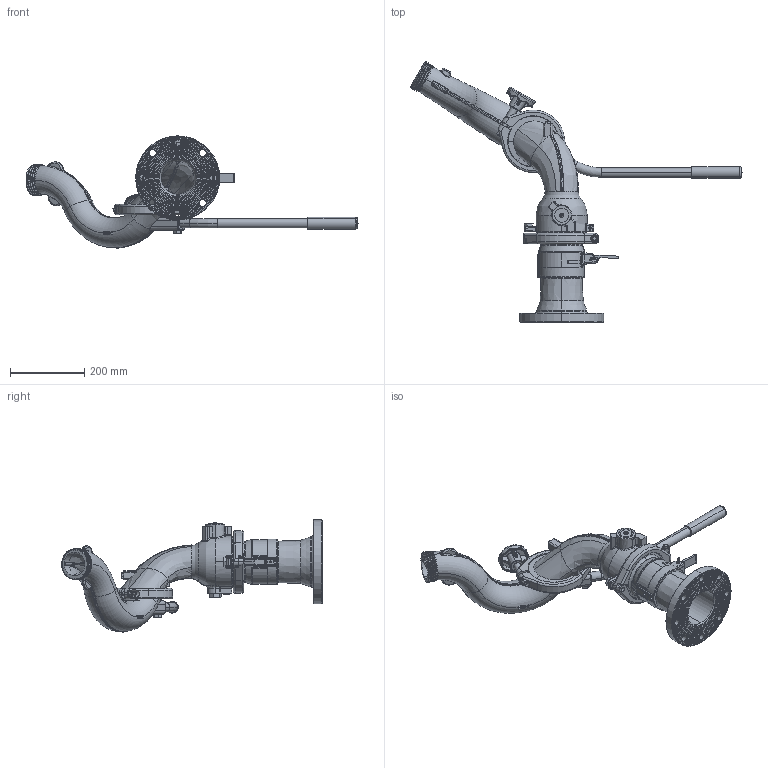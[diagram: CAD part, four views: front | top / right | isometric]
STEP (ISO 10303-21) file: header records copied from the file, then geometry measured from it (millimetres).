
FILE_DESCRIPTION (( 'STEP AP203' ), '1' );
FILE_NAME ('Z1221A.step', '2014-05-13T20:24:49', ( 'user' ), ( '' ), 'SwSTEP 2.0', 'SolidWorks 2012', '' );
FILE_SCHEMA (( 'CONFIG_CONTROL_DESIGN' ));
Length unit declared in the file: inch
Products named in the file (1): Z1221A
Bounding box: 893.22 x 701.11 x 301.82 mm (x, y, z)
Surface area: 720075.8 mm2 (no closed solid volume)
Topology: 0 solids, 39 shells, 1164 faces, 3839 edges, 2613 vertices
Faces by surface type: bspline 305, cylinder 271, plane 269, torus 232, cone 81, sphere 6
Entity records: 158100 total; most frequent: CARTESIAN_POINT 129042, ORIENTED_EDGE 6442, DIRECTION 4904, EDGE_CURVE 3832, VERTEX_POINT 2613, AXIS2_PLACEMENT_3D 1908, B_SPLINE_CURVE_WITH_KNOTS 1461, EDGE_LOOP 1232
